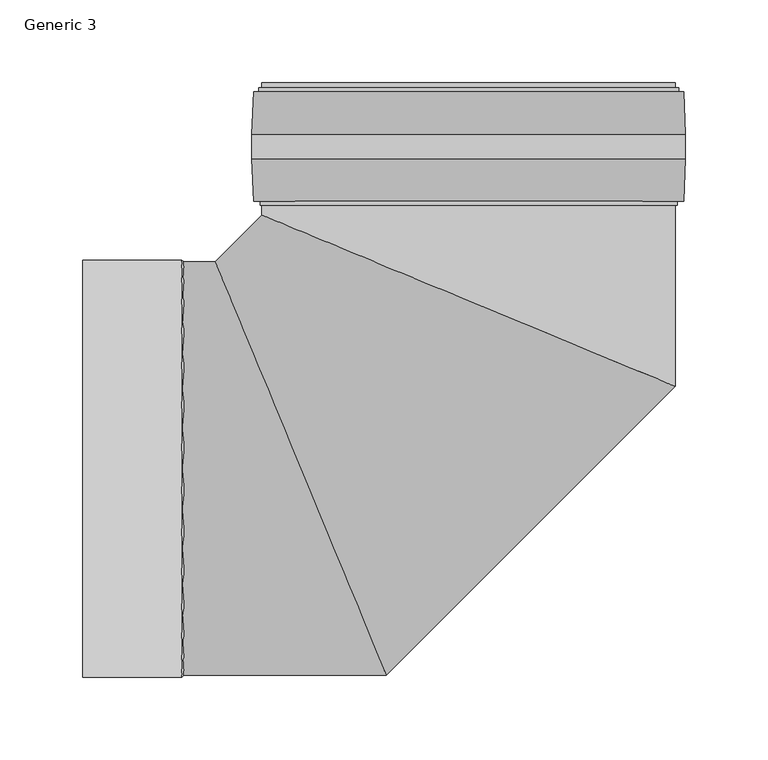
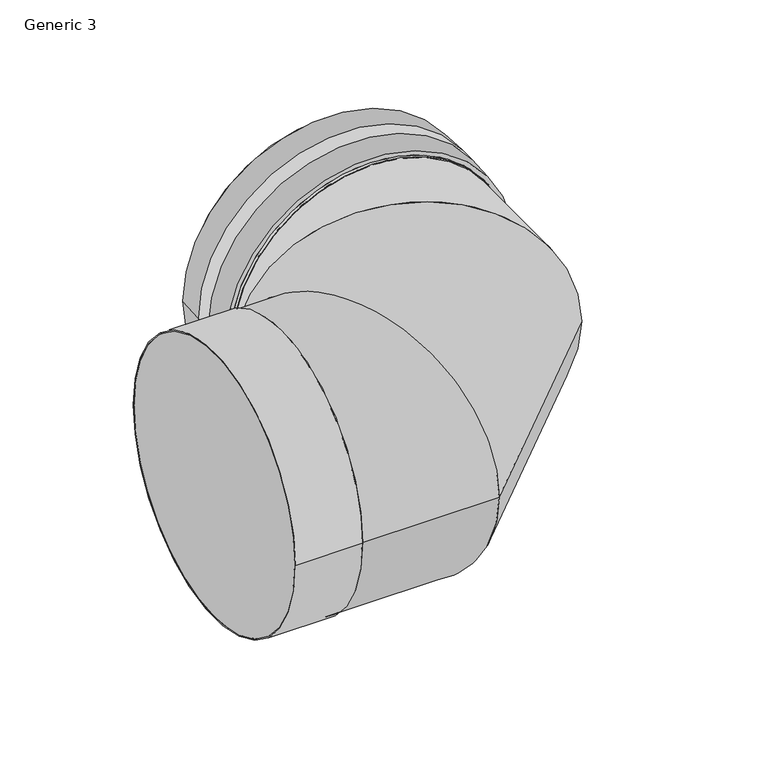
"""IFC4 building model written with IfcOpenShell, lengths in millimetres: pipe fitting geometry, CADS_Jeremias_Elbow_Socket1 : Generic 3."""

from ifc_helpers import new_model, si_unit, point, frame, origin, place, context, project, spatial, polyline, circle_curve, ellipse_curve, trimmed, source, transform, mapped, element, save
from ifc_brep_helpers import plane_surface, cylinder_surface, revolved_surface, advanced_brep


def generic_3_69cca52d(model_context):
    return source(origin(), model_context, "Body", "AdvancedBrep", [
        advanced_brep(
        [(-127.0, 227.748507, 0.0), (-127.0, 230.248507, 0.0), (127.0, 230.248507, 0.0), (127.0, 227.748507, 0.0), (125.0, 230.248507, 0.0), (-125.0, 230.248507, 0.0), (125.0, 159.2842712, 0.0), (-125.0, 159.2842712, 0.0), (126.0062895, 159.2842712, 0.0), (126.0062895, 161.7842712, 0.0), (-126.0062895, 161.7842712, 0.0), (-126.0062895, 159.2842712, 0.0), (-130.0, 227.748507, 0.0), (130.0, 227.748507, 0.0), (130.0, 161.7842712, 0.0), (-130.0, 161.7842712, 0.0), (130.9818268, 202.2663891, 0.0), (-130.9818268, 202.2663891, 0.0), (130.9818268, 187.2663891, 0.0), (-130.9818268, 187.2663891, 0.0)],
        [
            (0, 1),
            (1, 2, circle_curve(frame((0.0, 230.248507, 0.0), z_axis=(0.0, -1.0, 0.0), x_axis=(1.0, 0.0, 0.0)), 127.0)),
            (2, 3),
            (3, 0, circle_curve(frame((0.0, 227.748507, 0.0), z_axis=(0.0, 1.0, 0.0), x_axis=(1.0, 0.0, 0.0)), 127.0)),
            (1, 2, circle_curve(frame((0.0, 230.248507, 0.0), z_axis=(0.0, 1.0, 0.0), x_axis=(-1.0, 0.0, 0.0)), 127.0)),
            (4, 5, circle_curve(frame((0.0, 230.248507, 0.0), z_axis=(0.0, -1.0, 0.0), x_axis=(-1.0, 0.0, 0.0)), 125.0)),
            (5, 4, circle_curve(frame((0.0, 230.248507, 0.0), z_axis=(0.0, -1.0, 0.0), x_axis=(1.0, 0.0, 0.0)), 125.0)),
            (4, 6),
            (6, 7, circle_curve(frame((0.0, 159.2842712, 0.0), z_axis=(0.0, -1.0, 0.0), x_axis=(-1.0, 0.0, 0.0)), 125.0)),
            (7, 5),
            (0, 3, circle_curve(frame((0.0, 227.748507, 0.0), z_axis=(0.0, 1.0, 0.0), x_axis=(-1.0, 0.0, 0.0)), 127.0)),
            (8, 9),
            (9, 10, circle_curve(frame((0.0, 161.7842712, 0.0), z_axis=(0.0, -1.0, 0.0), x_axis=(-1.0, 0.0, 0.0)), 126.0062895)),
            (10, 11),
            (11, 8, circle_curve(frame((0.0, 159.2842712, 0.0), z_axis=(0.0, 1.0, 0.0), x_axis=(-1.0, 0.0, 0.0)), 126.0062895)),
            (11, 8, circle_curve(frame((0.0, 159.2842712, 0.0), z_axis=(0.0, -1.0, 0.0), x_axis=(1.0, 0.0, 0.0)), 126.0062895)),
            (6, 7, circle_curve(frame((0.0, 159.2842712, 0.0), z_axis=(0.0, 1.0, 0.0), x_axis=(1.0, 0.0, 0.0)), 125.0)),
            (12, 13, circle_curve(frame((0.0, 227.748507, 0.0), z_axis=(0.0, 1.0, 0.0), x_axis=(-1.0, 0.0, 0.0)), 130.0)),
            (13, 12, circle_curve(frame((0.0, 227.748507, 0.0), z_axis=(0.0, 1.0, 0.0), x_axis=(1.0, 0.0, 0.0)), 130.0)),
            (14, 15, circle_curve(frame((0.0, 161.7842712, 0.0), z_axis=(0.0, -1.0, 0.0), x_axis=(-1.0, 0.0, 0.0)), 130.0)),
            (15, 14, circle_curve(frame((0.0, 161.7842712, 0.0), z_axis=(0.0, -1.0, 0.0), x_axis=(1.0, 0.0, 0.0)), 130.0)),
            (9, 10, circle_curve(frame((0.0, 161.7842712, 0.0), z_axis=(0.0, 1.0, 0.0), x_axis=(1.0, 0.0, 0.0)), 126.0062895)),
            (16, 13, circle_curve(frame((-200.1877444, 202.2663891, 0.0), z_axis=(0.0, 0.0, 1.0), x_axis=(-1.0, 0.0, 0.0)), 331.1695712)),
            (12, 17, circle_curve(frame((200.1877444, 202.2663891, 0.0), z_axis=(0.0, 0.0, 1.0), x_axis=(1.0, 0.0, 0.0)), 331.1695712)),
            (17, 16, circle_curve(frame((0.0, 202.2663891, 0.0), z_axis=(0.0, 1.0, 0.0), x_axis=(-1.0, 0.0, 0.0)), 130.9818268)),
            (18, 16),
            (17, 19),
            (19, 18, circle_curve(frame((0.0, 187.2663891, 0.0), z_axis=(0.0, 1.0, 0.0), x_axis=(-1.0, 0.0, 0.0)), 130.9818268)),
            (14, 18, circle_curve(frame((-200.1877444, 187.2663891, 0.0), z_axis=(0.0, 0.0, 1.0), x_axis=(-1.0, 0.0, 0.0)), 331.1695712)),
            (19, 15, circle_curve(frame((200.1877444, 187.2663891, 0.0), z_axis=(0.0, 0.0, 1.0), x_axis=(1.0, 0.0, 0.0)), 331.1695712)),
            (16, 17, circle_curve(frame((0.0, 202.2663891, 0.0), z_axis=(0.0, 1.0, 0.0), x_axis=(1.0, 0.0, 0.0)), 130.9818268)),
            (18, 19, circle_curve(frame((0.0, 187.2663891, 0.0), z_axis=(0.0, 1.0, 0.0), x_axis=(1.0, 0.0, 0.0)), 130.9818268)),
        ],
        [
            cylinder_surface(frame((0.0, 173.2842712, 0.0), z_axis=(0.0, -1.0, 0.0), x_axis=(1.0, 0.0, 0.0)), 127.0),
            plane_surface(frame((0.0, 230.248507, 0.0), z_axis=(0.0, 1.0, 0.0), x_axis=(1.0, 0.0, 0.0))),
            revolved_surface(polyline([(-125.0, 159.2842712, 0.0), (-125.0, 230.248507, 0.0)]), (0.0, 173.2842712, 0.0), (0.0, -1.0, 0.0)),
            cylinder_surface(frame((0.0, 173.2842712, 0.0), z_axis=(0.0, -1.0, 0.0), x_axis=(-1.0, 0.0, 0.0)), 127.0),
            cylinder_surface(frame((0.0, 173.2842712, 0.0), z_axis=(0.0, -1.0, 0.0), x_axis=(-1.0, 0.0, 0.0)), 126.0062895),
            plane_surface(frame((0.0, 159.2842712, 0.0), z_axis=(0.0, -1.0, 0.0), x_axis=(1.0, 0.0, 0.0))),
            revolved_surface(polyline([(125.0, 159.2842712, 0.0), (125.0, 230.248507, 0.0)]), (0.0, 173.2842712, 0.0), (0.0, -1.0, 0.0)),
            plane_surface(frame((0.0, 227.748507, 0.0), z_axis=(0.0, 1.0, 0.0), x_axis=(1.0, 0.0, 0.0))),
            plane_surface(frame((0.0, 161.7842712, 0.0), z_axis=(0.0, -1.0, 0.0), x_axis=(1.0, 0.0, 0.0))),
            cylinder_surface(frame((0.0, 173.2842712, 0.0), z_axis=(0.0, -1.0, 0.0), x_axis=(1.0, 0.0, 0.0)), 126.0062895),
            revolved_surface(trimmed(ellipse_curve(frame((200.1877444, 202.2663891, 0.0), z_axis=(0.0, 0.0, 1.0), x_axis=(1.0, 0.0, 0.0)), 331.1695712, 331.1695712), [point((-130.0, 227.748507, 0.0))], [point((-130.9818268, 202.2663891, 0.0))], True, "CARTESIAN"), (0.0, 173.2842712, 0.0), (0.0, -1.0, 0.0)),
            cylinder_surface(frame((0.0, 173.2842712, 0.0), z_axis=(0.0, -1.0, 0.0), x_axis=(-1.0, 0.0, 0.0)), 130.9818268),
            revolved_surface(trimmed(ellipse_curve(frame((200.1877444, 187.2663891, 0.0), z_axis=(0.0, 0.0, 1.0), x_axis=(1.0, 0.0, 0.0)), 331.1695712, 331.1695712), [point((-130.9818268, 187.2663891, 0.0))], [point((-130.0, 161.7842712, 0.0))], True, "CARTESIAN"), (0.0, 173.2842712, 0.0), (0.0, -1.0, 0.0)),
            revolved_surface(trimmed(ellipse_curve(frame((-200.1877444, 202.2663891, 0.0), z_axis=(0.0, 0.0, -1.0), x_axis=(-1.0, 0.0, 0.0)), 331.1695712, 331.1695712), [point((130.0, 227.748507, 0.0))], [point((130.9818268, 202.2663891, 0.0))], True, "CARTESIAN"), (0.0, 173.2842712, 0.0), (0.0, -1.0, 0.0)),
            cylinder_surface(frame((0.0, 173.2842712, 0.0), z_axis=(0.0, -1.0, 0.0), x_axis=(1.0, 0.0, 0.0)), 130.9818268),
            revolved_surface(trimmed(ellipse_curve(frame((-200.1877444, 187.2663891, 0.0), z_axis=(0.0, 0.0, -1.0), x_axis=(-1.0, 0.0, 0.0)), 331.1695712, 331.1695712), [point((130.9818268, 187.2663891, 0.0))], [point((130.0, 161.7842712, 0.0))], True, "CARTESIAN"), (0.0, 173.2842712, 0.0), (0.0, -1.0, 0.0)),
        ],
        [
            (0, [[1, 2, 3, 4]]),
            (1, [[5, -2], [6, 7]]),
            (2, [[8, 9, 10, -6]]),
            (3, [[-3, -5, -1, 11]]),
            (4, [[12, 13, 14, 15]]),
            (5, [[-15, 16], [-9, 17]]),
            (6, [[-10, -17, -8, -7]]),
            (7, [[18, 19], [-11, -4]]),
            (8, [[20, 21], [-13, 22]]),
            (9, [[-14, -22, -12, -16]]),
            (10, [[23, -18, 24, 25]]),
            (11, [[26, -25, 27, 28]]),
            (12, [[29, -28, 30, -20]]),
            (13, [[-24, -19, -23, 31]]),
            (14, [[-27, -31, -26, 32]]),
            (15, [[-30, -32, -29, -21]]),
        ],
    ),
        advanced_brep(
        [(-173.2842712, 126.0, 0.0), (-173.2842712, -126.0, 0.0), (-233.2842712, -126.0, 0.0), (-233.2842712, 126.0, 0.0), (-172.2842712, 125.0, 0.0), (-172.2842712, -125.0, 0.0), (-233.2842712, 125.0, 0.0), (-233.2842712, -125.0, 0.0)],
        [
            (0, 1, circle_curve(frame((-173.2842712, 0.0, 0.0), z_axis=(-1.0, 0.0, 0.0), x_axis=(0.0, -1.0, 0.0)), 126.0)),
            (1, 2),
            (2, 3, circle_curve(frame((-233.2842712, 0.0, 0.0), z_axis=(1.0, 0.0, 0.0), x_axis=(0.0, -1.0, 0.0)), 126.0)),
            (3, 0),
            (4, 5, circle_curve(frame((-172.2842712, 0.0, 0.0), z_axis=(-1.0, 0.0, 0.0), x_axis=(0.0, -1.0, 0.0)), 125.0)),
            (5, 1),
            (0, 4),
            (6, 7, circle_curve(frame((-233.2842712, 0.0, 0.0), z_axis=(-1.0, 0.0, 0.0), x_axis=(0.0, -1.0, 0.0)), 125.0)),
            (7, 5),
            (4, 6),
            (2, 3, circle_curve(frame((-233.2842712, 0.0, 0.0), z_axis=(-1.0, 0.0, 0.0), x_axis=(0.0, 1.0, 0.0)), 126.0)),
            (6, 7, circle_curve(frame((-233.2842712, 0.0, 0.0), z_axis=(1.0, 0.0, 0.0), x_axis=(0.0, 1.0, 0.0)), 125.0)),
            (1, 0, circle_curve(frame((-173.2842712, 0.0, 0.0), z_axis=(-1.0, 0.0, 0.0), x_axis=(0.0, 1.0, 0.0)), 126.0)),
            (5, 4, circle_curve(frame((-172.2842712, 0.0, 0.0), z_axis=(-1.0, 0.0, 0.0), x_axis=(0.0, 1.0, 0.0)), 125.0)),
        ],
        [
            cylinder_surface(frame((-233.2842712, 0.0, 0.0), z_axis=(1.0, 0.0, 0.0), x_axis=(0.0, -1.0, 0.0)), 126.0),
            revolved_surface(polyline([(-173.2842712, -126.0, 0.0), (-172.2842712, -125.0, 0.0)]), (-233.2842712, 0.0, 0.0), (1.0, 0.0, 0.0)),
            revolved_surface(polyline([(-172.2842712, -125.0, 0.0), (-233.2842712, -125.0, 0.0)]), (-233.2842712, 0.0, 0.0), (1.0, 0.0, 0.0)),
            plane_surface(frame((-233.2842712, 0.0, 0.0), z_axis=(-1.0, 0.0, 0.0), x_axis=(0.0, 1.0, 0.0))),
            cylinder_surface(frame((-233.2842712, 0.0, 0.0), z_axis=(1.0, 0.0, 0.0), x_axis=(0.0, 1.0, 0.0)), 126.0),
            revolved_surface(polyline([(-173.2842712, 126.0, 0.0), (-172.2842712, 125.0, 0.0)]), (-233.2842712, 0.0, 0.0), (1.0, 0.0, 0.0)),
            revolved_surface(polyline([(-172.2842712, 125.0, 0.0), (-233.2842712, 125.0, 0.0)]), (-233.2842712, 0.0, 0.0), (1.0, 0.0, 0.0)),
        ],
        [
            (0, [[1, 2, 3, 4]]),
            (1, [[5, 6, -1, 7]]),
            (2, [[8, 9, -5, 10]]),
            (3, [[11, -3], [12, -8]]),
            (4, [[13, -4, -11, -2]]),
            (5, [[14, -7, -13, -6]]),
            (6, [[-12, -10, -14, -9]]),
        ],
    ),
        advanced_brep(
        [(-233.2842712, -125.0, 0.0), (-233.2842712, 125.0, 0.0), (-173.2842712, 125.0, 0.0), (-173.2842712, -125.0, 0.0), (-49.7308807, -125.0, 0.0), (-153.2842712, 125.0, 0.0), (125.0, 49.7308807, 0.0), (-125.0, 153.2842712, 0.0), (125.0, 233.2842712, 0.0), (-125.0, 233.2842712, 0.0), (125.0, 173.2842712, 0.0), (-125.0, 173.2842712, 0.0)],
        [
            (0, 1, circle_curve(frame((-233.2842712, 0.0, 0.0), z_axis=(-1.0, 0.0, 0.0), x_axis=(0.0, 1.0, 0.0)), 125.0)),
            (1, 0, circle_curve(frame((-233.2842712, 0.0, 0.0), z_axis=(-1.0, 0.0, 0.0), x_axis=(0.0, 1.0, 0.0)), 125.0)),
            (2, 3, circle_curve(frame((-173.2842712, 0.0, 0.0), z_axis=(1.0, 0.0, 0.0), x_axis=(0.0, 1.0, 0.0)), 125.0)),
            (3, 4),
            (4, 5, ellipse_curve(frame((-101.507576, 0.0, 0.0), z_axis=(-0.9238795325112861, -0.38268343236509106, 0.0), x_axis=(-0.38268343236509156, 0.923879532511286, 0.0)), 135.299025, 125.0)),
            (5, 2),
            (3, 2, circle_curve(frame((-173.2842712, 0.0, 0.0), z_axis=(1.0, 0.0, 0.0), x_axis=(0.0, 1.0, 0.0)), 125.0)),
            (5, 4, ellipse_curve(frame((-101.507576, 0.0, 0.0), z_axis=(-0.9238795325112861, -0.38268343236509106, 0.0), x_axis=(-0.38268343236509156, 0.923879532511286, 0.0)), 135.299025, 125.0)),
            (4, 6),
            (6, 7, ellipse_curve(frame((0.0, 101.507576, 0.0), z_axis=(-0.3826834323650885, -0.9238795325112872, 0.0), x_axis=(-0.9238795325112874, 0.3826834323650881, 0.0)), 135.299025, 125.0)),
            (7, 5),
            (7, 6, ellipse_curve(frame((0.0, 101.507576, 0.0), z_axis=(-0.3826834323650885, -0.9238795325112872, 0.0), x_axis=(-0.9238795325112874, 0.3826834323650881, 0.0)), 135.299025, 125.0)),
            (8, 9, circle_curve(frame((0.0, 233.2842712, 0.0), z_axis=(0.0, 1.0, 0.0), x_axis=(-1.0, 0.0, 0.0)), 125.0)),
            (9, 8, circle_curve(frame((0.0, 233.2842712, 0.0), z_axis=(0.0, 1.0, 0.0), x_axis=(-1.0, 0.0, 0.0)), 125.0)),
            (6, 10),
            (10, 11, circle_curve(frame((0.0, 173.2842712, 0.0), z_axis=(0.0, -1.0, 0.0), x_axis=(-1.0, 0.0, 0.0)), 125.0)),
            (11, 7),
            (11, 10, circle_curve(frame((0.0, 173.2842712, 0.0), z_axis=(0.0, -1.0, 0.0), x_axis=(-1.0, 0.0, 0.0)), 125.0)),
            (10, 8),
            (9, 11),
            (0, 3),
            (2, 1),
        ],
        [
            plane_surface(frame((-233.2842712, 0.0, 0.0), z_axis=(-1.0, 0.0, 0.0), x_axis=(0.0, 0.0, 1.0))),
            cylinder_surface(frame((-173.2842712, 0.0, 0.0), z_axis=(-1.0, 0.0, 0.0), x_axis=(0.0, 1.0, 0.0)), 125.0),
            cylinder_surface(frame((-101.507576, 0.0, 0.0), z_axis=(-0.7071067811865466, -0.7071067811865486, 0.0), x_axis=(-0.7071067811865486, 0.7071067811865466, 0.0)), 125.0),
            plane_surface(frame((0.0, 233.2842712, 0.0), z_axis=(0.0, 1.0, 0.0), x_axis=(0.0, 0.0, 1.0))),
            cylinder_surface(frame((0.0, 101.507576, 0.0), z_axis=(0.0, -1.0, 0.0), x_axis=(-1.0, 0.0, 0.0)), 125.0),
            cylinder_surface(frame((0.0, 173.2842712, 0.0), z_axis=(0.0, -1.0, 0.0), x_axis=(-1.0, 0.0, 0.0)), 125.0),
            cylinder_surface(frame((-233.2842712, 0.0, 0.0), z_axis=(-1.0, 0.0, 0.0), x_axis=(0.0, 1.0, 0.0)), 125.0),
        ],
        [
            (0, [[1, 2]]),
            (1, [[3, 4, 5, 6]]),
            (1, [[7, -6, 8, -4]]),
            (2, [[-5, 9, 10, 11]]),
            (2, [[-8, -11, 12, -9]]),
            (3, [[13, 14]]),
            (4, [[-10, 15, 16, 17]]),
            (4, [[-12, -17, 18, -15]]),
            (5, [[-16, 19, -14, 20]]),
            (5, [[-18, -20, -13, -19]]),
            (6, [[-1, 21, -3, 22]]),
            (6, [[-2, -22, -7, -21]]),
        ],
    ),
    ])


if __name__ == "__main__":
    model = new_model("IFC4")
    model_context = context("Model", 3, world=origin())
    ifc_project = project(units=[si_unit("LENGTHUNIT", "METRE", prefix="MILLI")], contexts=[model_context])
    site = spatial("IfcSite", under=ifc_project)
    building = spatial("IfcBuilding", under=site)
    placement = place(None, origin())
    generic_3_shape = generic_3_69cca52d(model_context)
    element("IfcPipeFitting", 1, ObjectType="CADS_Jeremias_Elbow_Socket1 : Generic 3", at=placement, inside=building, context=model_context, shape_type="MappedRepresentation", body=[
        mapped(generic_3_shape, transform((0.0, 0.0, 0.0), x_axis=(1.0, 0.0, 0.0), y_axis=(0.0, 1.0, 0.0), z_axis=(0.0, 0.0, 1.0))),
    ])
    save(model, "model.ifc")
